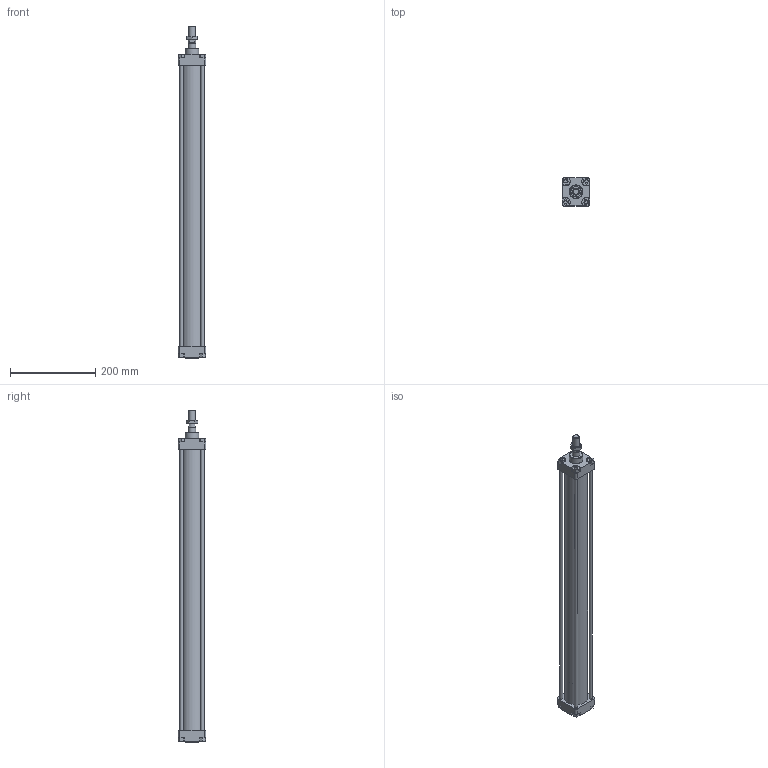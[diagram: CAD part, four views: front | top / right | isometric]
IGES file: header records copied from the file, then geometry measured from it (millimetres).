
Global section: file name: 130#_050_0600_01A; native system: Autodesk Inventor 2014; preprocessor: unknown; author: A. Manieri; date: 20161123.145539; units: millimetre
Bounding box: 65 x 65 x 779 mm (x, y, z)
Volume: 826249.6 mm3; surface area: 380236.6 mm2
Topology: 9 solids, 9 shells, 163 faces, 401 edges, 268 vertices
Faces by surface type: bspline 163
